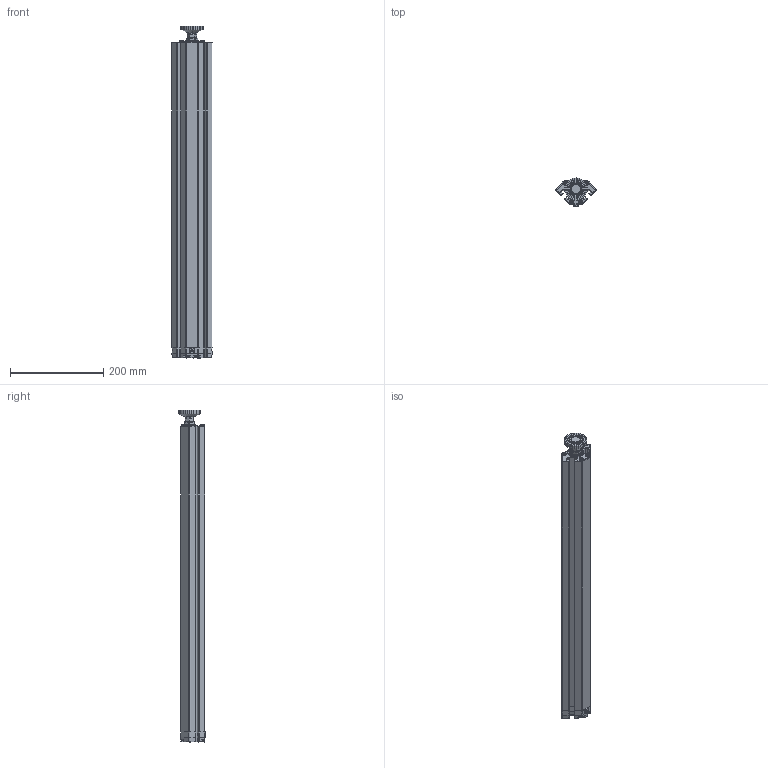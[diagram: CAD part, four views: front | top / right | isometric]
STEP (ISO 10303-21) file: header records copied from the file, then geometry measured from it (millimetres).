
FILE_DESCRIPTION (( 'STEP AP203' ), '1' );
FILE_NAME ('MLS-00042 Leg.STEP', '2014-03-05T21:26:48', ( '' ), ( '' ), 'SwSTEP 2.0', 'SolidWorks 2014', '' );
FILE_SCHEMA (( 'CONFIG_CONTROL_DESIGN' ));
Products named in the file (1): MLS-00042 Leg
Bounding box: 85.9 x 59.38 x 710.96 mm (x, y, z)
Volume: 826926.2 mm3; surface area: 635855.3 mm2
Topology: 21 solids, 29 shells, 2907 faces, 7331 edges, 4568 vertices
Faces by surface type: cylinder 1005, plane 829, bspline 655, torus 212, cone 190, sphere 16
Entity records: 110534 total; most frequent: CARTESIAN_POINT 46239, ORIENTED_EDGE 14602, DIRECTION 11972, EDGE_CURVE 7301, AXIS2_PLACEMENT_3D 4624, VERTEX_POINT 4568, EDGE_LOOP 3073, ADVANCED_FACE 2907
